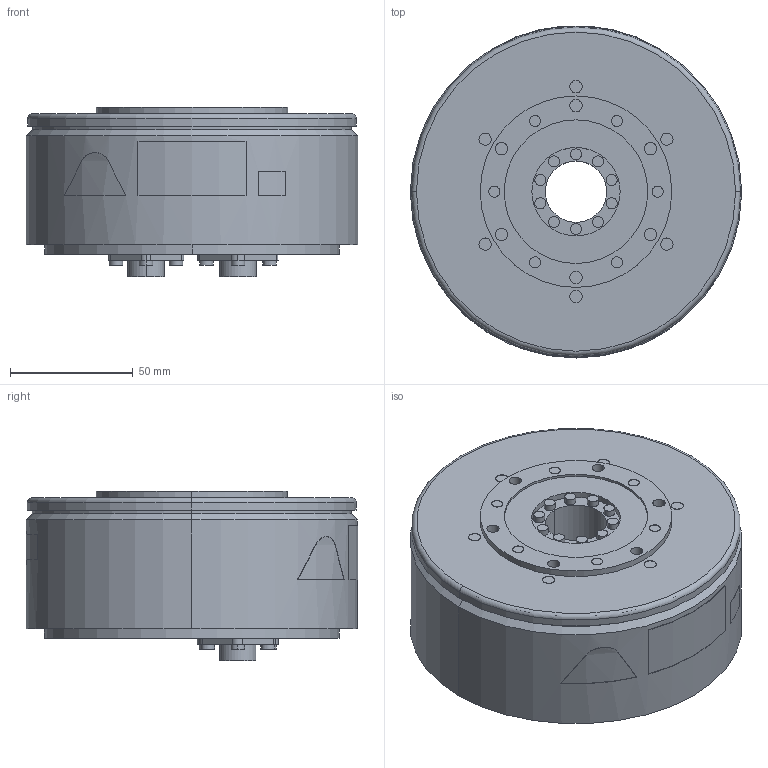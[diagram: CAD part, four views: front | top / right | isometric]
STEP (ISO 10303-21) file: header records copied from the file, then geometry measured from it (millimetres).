
FILE_DESCRIPTION (( 'STEP AP203' ), '1' );
FILE_NAME ('sgm7f_04b_a1_.STEP', '2016-07-24T06:26:44', ( '匠エンジニアリング山之内' ), ( 'TAKUMI-Engniaring' ), 'SwSTEP 2.0', 'SolidWorks 2006303', '' );
FILE_SCHEMA (( 'CONFIG_CONTROL_DESIGN' ));
Length unit declared in the file: millimetre
Products named in the file (1): sgm7f_04b_a1_
Bounding box: 135 x 135.21 x 69.1 mm (x, y, z)
Volume: 778130.9 mm3; surface area: 78174 mm2
Topology: 1 solids, 1 shells, 326 faces, 709 edges, 470 vertices
Faces by surface type: cylinder 182, plane 138, cone 4, torus 2
Entity records: 9212 total; most frequent: DIRECTION 1743, CARTESIAN_POINT 1578, ORIENTED_EDGE 1418, AXIS2_PLACEMENT_3D 713, EDGE_CURVE 709, VERTEX_POINT 470, EDGE_LOOP 413, CIRCLE 386
